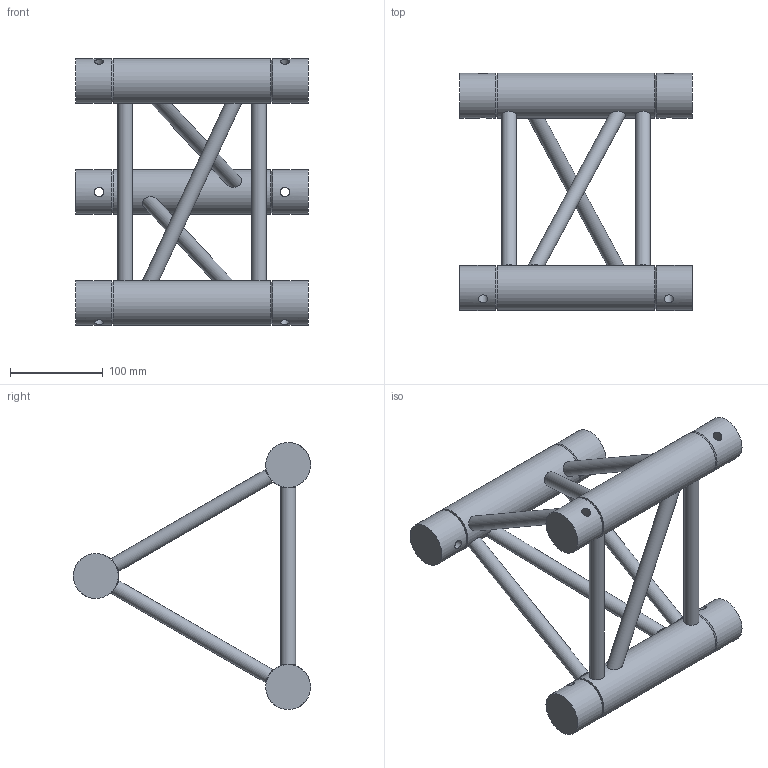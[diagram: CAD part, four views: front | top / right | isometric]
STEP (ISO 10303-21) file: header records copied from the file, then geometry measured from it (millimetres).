
FILE_DESCRIPTION(/* description */ (''),/* implementation_level */ '2;1');
FILE_NAME(/* name */ 'M:\Symbolen\STP\30-er truss\111050002.stp',/* time_stamp */ '2014-12-03T11:52:40+01:00',/* author */ ('Stephan'),/* organization */ (''),/* preprocessor_version */ 'ST-DEVELOPER v15.6',/* originating_system */ 'Autodesk Inventor 2015',/* authorisation */ '');
FILE_SCHEMA (('AUTOMOTIVE_DESIGN { 1 0 10303 214 3 1 1 }'));
Length unit declared in the file: millimetre
Products named in the file (1): 160023766
Bounding box: 250 x 255.28 x 287.3 mm (x, y, z)
Volume: 1246635.6 mm3; surface area: 228234.7 mm2
Topology: 6 solids, 12 shells, 72 faces, 129 edges, 81 vertices
Faces by surface type: plane 42, cylinder 24, cone 6
Full cylindrical faces by diameter (mm): 10 x6, 16 x9, 48.3 x9
Entity records: 2157 total; most frequent: CARTESIAN_POINT 661, DIRECTION 266, ORIENTED_EDGE 204, EDGE_LOOP 132, AXIS2_PLACEMENT_3D 127, EDGE_CURVE 90, VERTEX_POINT 78, STYLED_ITEM 76
